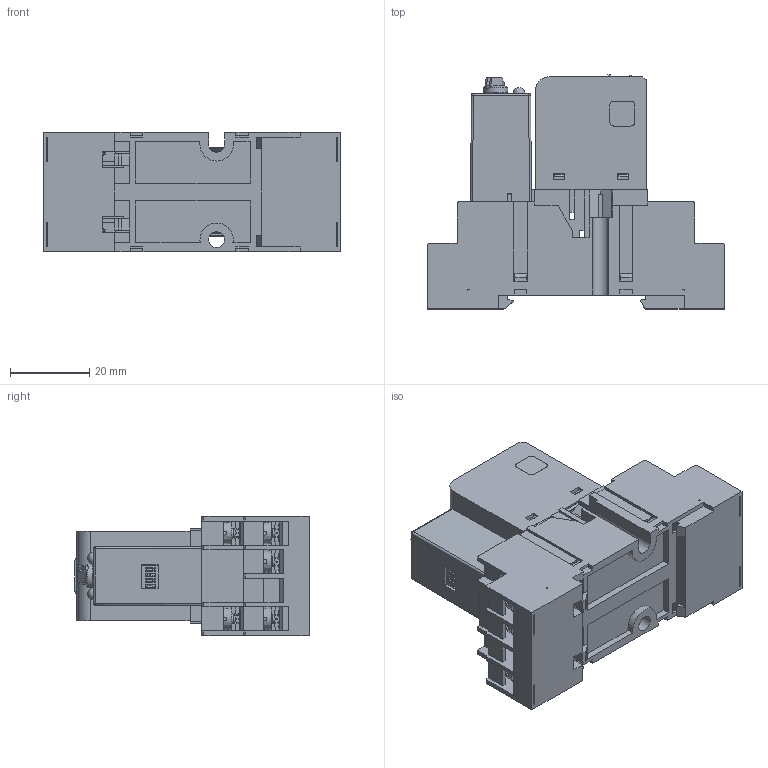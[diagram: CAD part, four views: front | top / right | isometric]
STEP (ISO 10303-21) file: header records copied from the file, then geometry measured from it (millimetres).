
FILE_DESCRIPTION(('STEP AP214'), '1');
FILE_NAME('Ðåëå ìîäóëüíîå ÐÏ30Õ-ÂÕ-003 (íà ïîêàç)', '', ('UNSPECIFIED'), ('UNSPECIFIED'), 'ASCON STEP Converter 1.6', 'ASCON Math Kernel', '');
FILE_SCHEMA(('AUTOMOTIVE_DESIGN { 1 0 10303 214 3 1 1}'));
Length unit declared in the file: millimetre
Bounding box: 74.9 x 59 x 30 mm (x, y, z)
Volume: 22230.8 mm3; surface area: 40433.6 mm2
Topology: 16 solids, 16 shells, 3583 faces, 10108 edges, 6480 vertices
Faces by surface type: plane 2658, cylinder 571, torus 154, bspline 118, cone 80, sphere 2
Full cylindrical faces by diameter (mm): 0.3 x4, 0.6 x2, 2.3 x11, 3 x26, 3.2 x3, 3.54 x11, 4 x1, 4.5 x14
Entity records: 163356 total; most frequent: CARTESIAN_POINT 44630, ORIENTED_EDGE 19944, DIRECTION 16704, EDGE_CURVE 9972, LINE 7164, VECTOR 7164, VERTEX_POINT 6478, AXIS2_PLACEMENT_3D 4770
